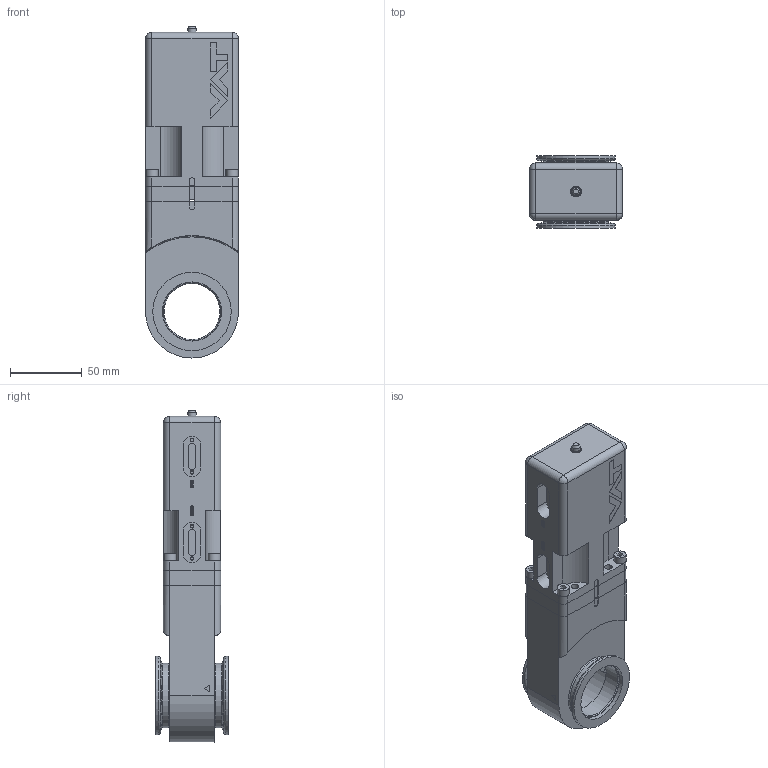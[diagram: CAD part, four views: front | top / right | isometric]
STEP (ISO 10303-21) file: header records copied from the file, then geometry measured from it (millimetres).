
FILE_DESCRIPTION(/* description */ (''),/* implementation_level */ '2;1');
FILE_NAME(/* name */ '1207476457_203.stp',/* time_stamp */ '2016-05-10T16:04:37+02:00',/* author */ (''),/* organization */ (''),/* preprocessor_version */ 'ST-DEVELOPER v15',/* originating_system */ 'SIEMENS PLM Software NX 9.0',/* authorisation */ '');
FILE_SCHEMA (('AP203_CONFIGURATION_CONTROLLED_3D_DESIGN_OF_MECHANICAL_PARTS_AND_ASSEMBLIES_MIM_LF { 1 0 10303 403 2 1 2}'));
Length unit declared in the file: millimetre
Products named in the file (12): 80477-01.1; 80478-01.1; N-6121-018.2; 101054-01.2; 101551-01.4_24997ID; 224796.1; 92483-01.4; 718270_NX-ARRAGMNTMassbild; 456568; 491642_NX-ARRAGMNTMassbild; 512020_NX-ARRAGMNTMassbild; 844106
Assembly tree (14 placements, depth 4):
  844106
    92483-01.4
    512020_NX-ARRAGMNTMassbild
      491642_NX-ARRAGMNTMassbild
        101551-01.4_24997ID
      456568
        101054-01.2
        N-6121-018.2
      718270_NX-ARRAGMNTMassbild
        80478-01.1
        80477-01.1
    224796.1  x4
Bounding box: 65 x 50.9 x 232.1 mm (x, y, z)
Volume: 308572.3 mm3; surface area: 101500.9 mm2
Topology: 18 solids, 18 shells, 636 faces, 1541 edges, 1009 vertices
Faces by surface type: plane 387, cylinder 146, extrusion 48, cone 33, torus 17, sphere 5
Full cylindrical faces by diameter (mm): 0.9 x2, 1.875 x1, 2 x1, 2.05 x4, 2.475 x2, 2.5 x6, 2.56 x1, 2.8 x1, 3 x2, 3.04 x1, 4.16 x4, 4.2 x10, 5 x10, 5.2 x12, 5.7 x1, 5.8 x1, 6.98 x1, 7.008 x1, 7.045 x1, 8 x1, 8.5 x4, 12.25 x1, 17.009 x1, 19.25 x1, 23 x1, 28.55 x1, 32.1 x1, 32.975 x2, 33.1 x1, 39.1 x2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
Entity records: 20128 total; most frequent: CARTESIAN_POINT 5627, ORIENTED_EDGE 2572, DIRECTION 2343, EDGE_CURVE 1286, VERTEX_POINT 913, AXIS2_PLACEMENT_3D 837, EDGE_LOOP 800, VECTOR 669
